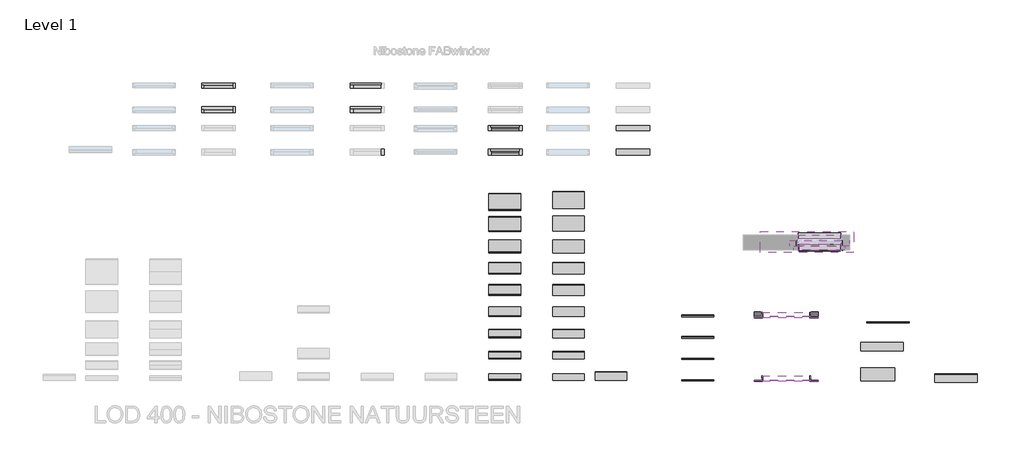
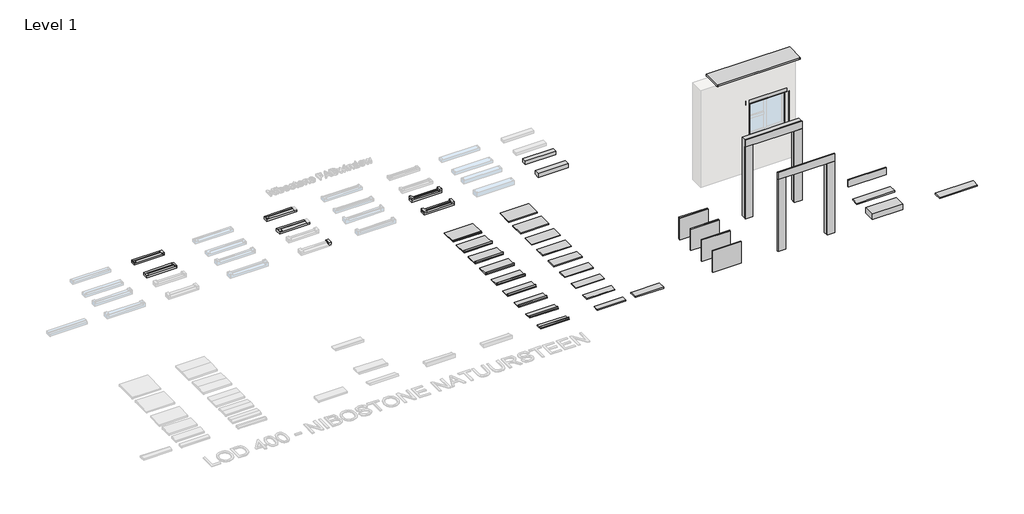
# One storey, part 3 of 4: 71 proxies.
"""IFC4 building model written with IfcOpenShell, lengths in millimetres."""

from ifc_helpers import new_model, si_unit, frame, origin, place, context, project, spatial, polyline, outline, extrude, faceted_brep, transform, mapped, element, save
from components import generic_models_4bea83f5, generic_models_c970b44f, generic_models_d3818979, generic_models_0f2e3a4e, generic_models_bb41b8d3, generic_models_ca184088, proxy_150_mm_c4bdd993, proxy_150_mm_ca923bcc, proxy_175_mm_28cd4d07, proxy_175_mm_1eb8ddfd, proxy_175_mm_35256b22, proxy_175_mm_2a68124a, proxy_200_mm_76491fd2, proxy_200_mm_34eb9fa0, proxy_225_mm_b38ed08b, proxy_225_mm_9ad4d809, proxy_250_mm_6b778dde, proxy_250_mm_bb0ab3bd, proxy_275_mm_4d599cdf, proxy_275_mm_176d9016, proxy_300_mm_cd6bf833, proxy_300_mm_4064e9de, proxy_350_mm_8b86544a, proxy_350_mm_dca82a35, proxy_400_mm_2aad5f86, proxy_400_mm_b8799641, proxy_500_mm_7bc9ffac, boven_94df7e55, links_18fe3aea, rechts_cb2a7235, std_9d51e7c5, std_7226f1d9, std_2bb5f184, std_e55cd7ee, std_7f9111ec, std_fba14e34, std_465226a6, std_f1861b5c, std_f690763c, std_e08fb664, std_f5cab2c8, std_3d7576f2, std_c930b66d

model = new_model("IFC4")

# Units and contexts
model_context = context("Model", 3, world=origin())
ifc_project = project(units=[si_unit("LENGTHUNIT", "METRE", prefix="MILLI")], contexts=[model_context])

# Site, building, storey
site = spatial("IfcSite", under=ifc_project)
building = spatial("IfcBuilding", under=site)
storey = spatial("IfcBuildingStorey", under=building, Name="Level 1", Elevation=0.0)

# Proxies
placement = place(None, origin())
element("IfcBuildingElementProxy", 1, Name="Nibostone : BLOK-114-100", ObjectType="Nibostone : BLOK-114-100", at=placement, inside=storey, context=model_context, shape_type="SweptSolid", body=[
    extrude(outline(polyline([(19500.0, 15886.0), (19500.0, 16000.0), (20293.7366492, 16000.0), (20293.7366492, 15886.0), (19500.0, 15886.0)])), frame((0.0, 0.0, -26.0), z_axis=(0.0, 0.0, 1.0), x_axis=(1.0, 0.0, 0.0)), (0.0, 0.0, 1.0), 100.0),
])
element("IfcBuildingElementProxy", 2, Name="Nibostone : BLOK-139-100", ObjectType="Nibostone : BLOK-139-100", at=placement, inside=storey, context=model_context, shape_type="SweptSolid", body=[
    extrude(outline(polyline([(19500.0, 15301.0), (19500.0, 15440.0), (20293.7366492, 15440.0), (20293.7366492, 15301.0), (19500.0, 15301.0)])), frame((0.0, 0.0, -26.0), z_axis=(0.0, 0.0, 1.0), x_axis=(1.0, 0.0, 0.0)), (0.0, 0.0, 1.0), 100.0),
])
generic_models_shape = generic_models_4bea83f5(model_context)
element("IfcBuildingElementProxy", 3, Name="400_35_NS_natuursteenkader_constructief : 400_35_NS_natuursteenkader_constructief", ObjectType="400_35_NS_natuursteenkader_constructief : 400_35_NS_natuursteenkader_constructief", at=placement, inside=storey, context=model_context, shape_type="MappedRepresentation", body=[
    mapped(generic_models_shape, transform((23500.0, 11500.0, 0.0), x_axis=(1.0, 0.0, 0.0), y_axis=(0.0, 1.0, 0.0), z_axis=(0.0, 0.0, 1.0))),
])
generic_models_2_shape = generic_models_c970b44f(model_context)
element("IfcBuildingElementProxy", 4, Name="400_24_NS_bloktrede : bloktrede", ObjectType="400_24_NS_bloktrede : bloktrede", at=placement, inside=storey, context=model_context, shape_type="MappedRepresentation", body=[
    mapped(generic_models_2_shape, transform((25250.0, 9991.3026751, 0.0), x_axis=(1.0, 0.0, 0.0), y_axis=(0.0, 1.0, 0.0), z_axis=(0.0, 0.0, 1.0))),
])
generic_models_3_shape = generic_models_d3818979(model_context)
element("IfcBuildingElementProxy", 5, Name="400_35_NS_gevelplint : 20 mm dik", ObjectType="400_35_NS_gevelplint : 20 mm dik", at=placement, inside=storey, context=model_context, shape_type="MappedRepresentation", body=[
    mapped(generic_models_3_shape, transform((21415.474413, 9991.3026751, 0.0), x_axis=(1.0, 0.0, 0.0), y_axis=(0.0, 1.0, 0.0), z_axis=(0.0, 0.0, 1.0))),
])
generic_models_4_shape = generic_models_0f2e3a4e(model_context)
element("IfcBuildingElementProxy", 6, Name="400_35_NS_gevelplint : 30 mm dik", ObjectType="400_35_NS_gevelplint : 30 mm dik", at=placement, inside=storey, context=model_context, shape_type="MappedRepresentation", body=[
    mapped(generic_models_4_shape, transform((21415.474413, 10491.3026751, 0.0), x_axis=(1.0, 0.0, 0.0), y_axis=(0.0, 1.0, 0.0), z_axis=(0.0, 0.0, 1.0))),
])
generic_models_5_shape = generic_models_bb41b8d3(model_context)
element("IfcBuildingElementProxy", 7, Name="400_35_NS_gevelplint : 40 mm dik", ObjectType="400_35_NS_gevelplint : 40 mm dik", at=placement, inside=storey, context=model_context, shape_type="MappedRepresentation", body=[
    mapped(generic_models_5_shape, transform((21415.474413, 10991.3026751, 0.0), x_axis=(1.0, 0.0, 0.0), y_axis=(0.0, 1.0, 0.0), z_axis=(0.0, 0.0, 1.0))),
])
generic_models_6_shape = generic_models_ca184088(model_context)
element("IfcBuildingElementProxy", 8, Name="400_35_NS_gevelplint : 50 mm dik", ObjectType="400_35_NS_gevelplint : 50 mm dik", at=placement, inside=storey, context=model_context, shape_type="MappedRepresentation", body=[
    mapped(generic_models_6_shape, transform((21415.474413, 11491.3026751, 0.0), x_axis=(1.0, 0.0, 0.0), y_axis=(0.0, 1.0, 0.0), z_axis=(0.0, 0.0, 1.0))),
])
proxy_150_mm_shape = proxy_150_mm_c4bdd993(model_context)
element("IfcBuildingElementProxy", 9, Name="400_35_NS_vensterbank : 150 mm", ObjectType="400_35_NS_vensterbank : 150 mm", at=placement, inside=storey, context=model_context, shape_type="MappedRepresentation", body=[
    mapped(proxy_150_mm_shape, transform((18378.8137943, 10001.8708366, 0.0), x_axis=(1.0, 0.0, 0.0), y_axis=(0.0, 1.0, 0.0), z_axis=(0.0, 0.0, 1.0))),
])
proxy_150_mm_2_shape = proxy_150_mm_ca923bcc(model_context)
element("IfcBuildingElementProxy", 10, Name="400_35_NS_raamdorpel_kunststof_klik : 150 mm", ObjectType="400_35_NS_raamdorpel_kunststof_klik : 150 mm", at=placement, inside=storey, context=model_context, shape_type="MappedRepresentation", body=[
    mapped(proxy_150_mm_2_shape, transform((16878.8137943, 10001.8708366, 0.0), x_axis=(1.0, 0.0, 0.0), y_axis=(0.0, 1.0, 0.0), z_axis=(0.0, 0.0, 1.0))),
])
proxy_175_mm_shape = proxy_175_mm_28cd4d07(model_context)
element("IfcBuildingElementProxy", 11, Name="400_35_NS_raamdorpel_natuursteen_klik : 175 mm", ObjectType="400_35_NS_raamdorpel_natuursteen_klik : 175 mm", at=placement, inside=storey, context=model_context, shape_type="MappedRepresentation", body=[
    mapped(proxy_175_mm_shape, transform((24281.0611281, 13292.3586374, 846.8050157), x_axis=(1.0, 0.0, 0.0), y_axis=(0.0, 1.0, 0.0), z_axis=(0.0, 0.0, 1.0))),
])
proxy_175_mm_2_shape = proxy_175_mm_1eb8ddfd(model_context)
element("IfcBuildingElementProxy", 12, Name="400_35_NS_vensterbank : 175 mm", ObjectType="400_35_NS_vensterbank : 175 mm", at=placement, inside=storey, context=model_context, shape_type="MappedRepresentation", body=[
    mapped(proxy_175_mm_2_shape, transform((18378.8137943, 10501.8708366, 0.0), x_axis=(1.0, 0.0, 0.0), y_axis=(0.0, 1.0, 0.0), z_axis=(0.0, 0.0, 1.0))),
])
proxy_175_mm_3_shape = proxy_175_mm_35256b22(model_context)
element("IfcBuildingElementProxy", 13, Name="400_35_NS_vensterbank : 175 mm", ObjectType="400_35_NS_vensterbank : 175 mm", at=placement, inside=storey, context=model_context, shape_type="MappedRepresentation", body=[
    mapped(proxy_175_mm_3_shape, transform((24281.0611281, 13217.3586374, 886.8050157), x_axis=(-1.0, 0.0, 0.0), y_axis=(0.0, -1.0, 0.0), z_axis=(0.0, 0.0, 1.0))),
])
proxy_175_mm_4_shape = proxy_175_mm_2a68124a(model_context)
element("IfcBuildingElementProxy", 14, Name="400_35_NS_raamdorpel_kunststof_klik : 175 mm", ObjectType="400_35_NS_raamdorpel_kunststof_klik : 175 mm", at=placement, inside=storey, context=model_context, shape_type="MappedRepresentation", body=[
    mapped(proxy_175_mm_4_shape, transform((16878.8137943, 10501.8708366, 0.0), x_axis=(1.0, 0.0, 0.0), y_axis=(0.0, 1.0, 0.0), z_axis=(0.0, 0.0, 1.0))),
])
proxy_200_mm_shape = proxy_200_mm_76491fd2(model_context)
element("IfcBuildingElementProxy", 15, Name="400_35_NS_vensterbank : 200 mm", ObjectType="400_35_NS_vensterbank : 200 mm", at=placement, inside=storey, context=model_context, shape_type="MappedRepresentation", body=[
    mapped(proxy_200_mm_shape, transform((18378.8137943, 11001.8708366, 0.0), x_axis=(1.0, 0.0, 0.0), y_axis=(0.0, 1.0, 0.0), z_axis=(0.0, 0.0, 1.0))),
])
proxy_200_mm_2_shape = proxy_200_mm_34eb9fa0(model_context)
element("IfcBuildingElementProxy", 16, Name="400_35_NS_raamdorpel_kunststof_klik : 200 mm", ObjectType="400_35_NS_raamdorpel_kunststof_klik : 200 mm", at=placement, inside=storey, context=model_context, shape_type="MappedRepresentation", body=[
    mapped(proxy_200_mm_2_shape, transform((16878.8137943, 11001.8708366, 0.0), x_axis=(1.0, 0.0, 0.0), y_axis=(0.0, 1.0, 0.0), z_axis=(0.0, 0.0, 1.0))),
])
proxy_225_mm_shape = proxy_225_mm_b38ed08b(model_context)
element("IfcBuildingElementProxy", 17, Name="400_35_NS_vensterbank : 225 mm", ObjectType="400_35_NS_vensterbank : 225 mm", at=placement, inside=storey, context=model_context, shape_type="MappedRepresentation", body=[
    mapped(proxy_225_mm_shape, transform((18378.8137943, 11501.8708366, 0.0), x_axis=(1.0, 0.0, 0.0), y_axis=(0.0, 1.0, 0.0), z_axis=(0.0, 0.0, 1.0))),
])
proxy_225_mm_2_shape = proxy_225_mm_9ad4d809(model_context)
element("IfcBuildingElementProxy", 18, Name="400_35_NS_raamdorpel_kunststof_klik : 225 mm", ObjectType="400_35_NS_raamdorpel_kunststof_klik : 225 mm", at=placement, inside=storey, context=model_context, shape_type="MappedRepresentation", body=[
    mapped(proxy_225_mm_2_shape, transform((16878.8137943, 11501.8708366, 0.0), x_axis=(1.0, 0.0, 0.0), y_axis=(0.0, 1.0, 0.0), z_axis=(0.0, 0.0, 1.0))),
])
proxy_250_mm_shape = proxy_250_mm_6b778dde(model_context)
element("IfcBuildingElementProxy", 19, Name="400_35_NS_vensterbank : 250 mm", ObjectType="400_35_NS_vensterbank : 250 mm", at=placement, inside=storey, context=model_context, shape_type="MappedRepresentation", body=[
    mapped(proxy_250_mm_shape, transform((18378.8137943, 12001.8708366, 0.0), x_axis=(1.0, 0.0, 0.0), y_axis=(0.0, 1.0, 0.0), z_axis=(0.0, 0.0, 1.0))),
])
proxy_250_mm_2_shape = proxy_250_mm_bb0ab3bd(model_context)
element("IfcBuildingElementProxy", 20, Name="400_35_NS_raamdorpel_kunststof_klik : 250 mm", ObjectType="400_35_NS_raamdorpel_kunststof_klik : 250 mm", at=placement, inside=storey, context=model_context, shape_type="MappedRepresentation", body=[
    mapped(proxy_250_mm_2_shape, transform((16878.8137943, 12001.8708366, 0.0), x_axis=(1.0, 0.0, 0.0), y_axis=(0.0, 1.0, 0.0), z_axis=(0.0, 0.0, 1.0))),
])
proxy_275_mm_shape = proxy_275_mm_4d599cdf(model_context)
element("IfcBuildingElementProxy", 21, Name="400_35_NS_vensterbank : 275 mm", ObjectType="400_35_NS_vensterbank : 275 mm", at=placement, inside=storey, context=model_context, shape_type="MappedRepresentation", body=[
    mapped(proxy_275_mm_shape, transform((18378.8137943, 12501.8708366, 0.0), x_axis=(1.0, 0.0, 0.0), y_axis=(0.0, 1.0, 0.0), z_axis=(0.0, 0.0, 1.0))),
])
proxy_275_mm_2_shape = proxy_275_mm_176d9016(model_context)
element("IfcBuildingElementProxy", 22, Name="400_35_NS_raamdorpel_kunststof_klik : 275 mm", ObjectType="400_35_NS_raamdorpel_kunststof_klik : 275 mm", at=placement, inside=storey, context=model_context, shape_type="MappedRepresentation", body=[
    mapped(proxy_275_mm_2_shape, transform((16878.8137943, 12501.8708366, 0.0), x_axis=(1.0, 0.0, 0.0), y_axis=(0.0, 1.0, 0.0), z_axis=(0.0, 0.0, 1.0))),
])
proxy_300_mm_shape = proxy_300_mm_cd6bf833(model_context)
element("IfcBuildingElementProxy", 23, Name="400_35_NS_vensterbank : 300 mm", ObjectType="400_35_NS_vensterbank : 300 mm", at=placement, inside=storey, context=model_context, shape_type="MappedRepresentation", body=[
    mapped(proxy_300_mm_shape, transform((18378.8137943, 13001.8708366, 0.0), x_axis=(1.0, 0.0, 0.0), y_axis=(0.0, 1.0, 0.0), z_axis=(0.0, 0.0, 1.0))),
])
proxy_300_mm_2_shape = proxy_300_mm_4064e9de(model_context)
element("IfcBuildingElementProxy", 24, Name="400_35_NS_raamdorpel_kunststof_klik : 300 mm", ObjectType="400_35_NS_raamdorpel_kunststof_klik : 300 mm", at=placement, inside=storey, context=model_context, shape_type="MappedRepresentation", body=[
    mapped(proxy_300_mm_2_shape, transform((16878.8137943, 13001.8708366, 0.0), x_axis=(1.0, 0.0, 0.0), y_axis=(0.0, 1.0, 0.0), z_axis=(0.0, 0.0, 1.0))),
])
proxy_350_mm_shape = proxy_350_mm_8b86544a(model_context)
element("IfcBuildingElementProxy", 25, Name="400_35_NS_vensterbank : 350 mm", ObjectType="400_35_NS_vensterbank : 350 mm", at=placement, inside=storey, context=model_context, shape_type="MappedRepresentation", body=[
    mapped(proxy_350_mm_shape, transform((18378.8137943, 13518.4409872, 0.0), x_axis=(1.0, 0.0, 0.0), y_axis=(0.0, 1.0, 0.0), z_axis=(0.0, 0.0, 1.0))),
])
proxy_350_mm_2_shape = proxy_350_mm_dca82a35(model_context)
element("IfcBuildingElementProxy", 26, Name="400_35_NS_raamdorpel_kunststof_klik : 350 mm", ObjectType="400_35_NS_raamdorpel_kunststof_klik : 350 mm", at=placement, inside=storey, context=model_context, shape_type="MappedRepresentation", body=[
    mapped(proxy_350_mm_2_shape, transform((16878.8137943, 13501.8708366, 0.0), x_axis=(1.0, 0.0, 0.0), y_axis=(0.0, 1.0, 0.0), z_axis=(0.0, 0.0, 1.0))),
])
proxy_400_mm_shape = proxy_400_mm_2aad5f86(model_context)
element("IfcBuildingElementProxy", 27, Name="400_35_NS_vensterbank : 400 mm", ObjectType="400_35_NS_vensterbank : 400 mm", at=placement, inside=storey, context=model_context, shape_type="MappedRepresentation", body=[
    mapped(proxy_400_mm_shape, transform((18378.8137943, 14048.8647736, 0.0), x_axis=(1.0, 0.0, 0.0), y_axis=(0.0, 1.0, 0.0), z_axis=(0.0, 0.0, 1.0))),
])
proxy_400_mm_2_shape = proxy_400_mm_b8799641(model_context)
element("IfcBuildingElementProxy", 28, Name="400_35_NS_raamdorpel_kunststof_klik : 400 mm", ObjectType="400_35_NS_raamdorpel_kunststof_klik : 400 mm", at=placement, inside=storey, context=model_context, shape_type="MappedRepresentation", body=[
    mapped(proxy_400_mm_2_shape, transform((16878.8137943, 14001.8708366, 0.0), x_axis=(1.0, 0.0, 0.0), y_axis=(0.0, 1.0, 0.0), z_axis=(0.0, 0.0, 1.0))),
])
proxy_500_mm_shape = proxy_500_mm_7bc9ffac(model_context)
element("IfcBuildingElementProxy", 29, Name="400_35_NS_afdekker_éénzijdig_afwaterend : 500 mm", ObjectType="400_35_NS_afdekker_éénzijdig_afwaterend : 500 mm", at=placement, inside=storey, context=model_context, shape_type="MappedRepresentation", body=[
    mapped(proxy_500_mm_shape, transform((23994.5083422, 13007.3586374, 2707.1148791), x_axis=(1.0, 0.0, 0.0), y_axis=(0.0, 1.0, 0.0), z_axis=(0.0, 0.0, 1.0))),
])
element("IfcBuildingElementProxy", 30, Name="Nibostone : BI-51-114", ObjectType="Nibostone : BI-51-114", at=placement, inside=storey, context=model_context, shape_type="Brep", body=[
    faceted_brep([(13250.0, 16999.5777074, -26.0), (13250.0, 16999.5777074, 44.0), (13976.7366492, 16999.5777074, 44.0), (13976.7366492, 16999.5777074, 8.9806081), (14043.7366492, 16999.5777074, 8.9806081), (14043.7366492, 16999.5777074, -26.0), (13250.0, 16958.5777074, 44.0), (13250.0, 16958.5777074, 27.6985751), (13300.0, 16958.5777074, 27.6985751), (13976.7366492, 16958.5777074, 27.6985751), (13976.7366492, 16958.5777074, 44.0), (13300.0, 16958.5777074, 44.0), (14043.7366492, 16885.5777074, -26.0), (13250.0, 16885.5777074, -26.0), (14043.7366492, 16964.4229826, 8.9806081), (14043.7366492, 16885.5777074, 8.9806081), (13976.7366492, 16948.5777074, 8.9806081), (13976.7366492, 16885.5777074, 8.9806081), (13976.7366492, 16964.5777074, 8.9806081), (13976.7366492, 16958.5777074, 8.9806081), (13993.7366492, 16958.5777074, 8.9806081), (13993.7366492, 16948.5777074, 8.9806081), (13993.7366492, 16948.5777074, 27.2619657), (13976.7366492, 16948.5777074, 27.2619657), (13993.7366492, 16958.5777074, 27.6985751), (13976.7366492, 16885.5777074, 24.5113263), (13317.0, 16885.5777074, 24.5113263), (13250.0, 16885.5777074, 24.5113263)], [[[0, 1, 2, 3, 4, 5]], [[6, 7, 8, 9, 10, 11]], [[1, 6, 11, 10, 2]], [[0, 5, 12, 13]], [[12, 5, 4, 14, 15]], [[16, 17, 15, 14, 18, 19, 20, 21]], [[16, 21, 22, 23]], [[20, 19, 9, 24]], [[13, 12, 15, 17, 25, 26, 27]], [[1, 0, 13, 27, 7, 6]], [[7, 27, 26, 25, 23, 22, 24, 9, 8]], [[18, 14, 4, 3]], [[17, 16, 23, 25]], [[21, 20, 24, 22]], [[19, 18, 3, 2, 10, 9]]]),
])
element("IfcBuildingElementProxy", 31, Name="Nibostone : BI-57-139", ObjectType="Nibostone : BI-57-139", at=placement, inside=storey, context=model_context, shape_type="Brep", body=[
    faceted_brep([(13250.0, 16440.0, -26.0), (13250.0, 16440.0, 44.0), (13976.7366492, 16440.0, 44.0), (13976.7366492, 16440.0, 8.9806081), (14043.7366492, 16440.0, 8.9806081), (14043.7366492, 16440.0, -26.0), (13250.0, 16393.0, 44.0), (13250.0, 16393.0, 27.4366094), (13300.0, 16393.0, 27.4366094), (13976.7366492, 16393.0, 27.4366094), (13976.7366492, 16393.0, 44.0), (13300.0, 16393.0, 44.0), (14043.7366492, 16301.0, -26.0), (13250.0, 16301.0, -26.0), (14043.7366492, 16404.8452752, 8.9806081), (14043.7366492, 16301.0, 8.9806081), (13976.7366492, 16383.0, 8.9806081), (13976.7366492, 16301.0, 8.9806081), (13976.7366492, 16405.0, 8.9806081), (13976.7366492, 16393.0, 8.9806081), (13993.7366492, 16393.0, 8.9806081), (13993.7366492, 16383.0, 8.9806081), (13976.7366492, 16301.0, 23.4198027), (13317.0, 16301.0, 23.4198027), (13250.0, 16301.0, 23.4198027), (13976.7366492, 16383.0, 27.0), (13993.7366492, 16383.0, 27.0), (13993.7366492, 16393.0, 27.4366094)], [[[0, 1, 2, 3, 4, 5]], [[6, 7, 8, 9, 10, 11]], [[1, 6, 11, 10, 2]], [[0, 5, 12, 13]], [[12, 5, 4, 14, 15]], [[16, 17, 15, 14, 18, 19, 20, 21]], [[13, 12, 15, 17, 22, 23, 24]], [[1, 0, 13, 24, 7, 6]], [[7, 24, 23, 22, 25, 26, 27, 9, 8]], [[18, 14, 4, 3]], [[21, 20, 27, 26]], [[16, 21, 26, 25]], [[20, 19, 9, 27]], [[17, 16, 25, 22]], [[19, 18, 3, 2, 10, 9]]]),
])
element("IfcBuildingElementProxy", 32, Name="Nibostone : BU-67-114", ObjectType="Nibostone : BU-67-114", at=placement, inside=storey, context=model_context, shape_type="Brep", body=[
    faceted_brep([(9750.0, 16999.5777074, -26.0), (9750.0, 16999.5777074, 44.0), (10476.7366492, 16999.5777074, 44.0), (10476.7366492, 16999.5777074, 26.0), (10543.7366492, 16999.5777074, 26.0), (10543.7366492, 16999.5777074, -26.0), (9750.0, 16952.5777074, 44.0), (9750.0, 16952.5777074, 27.4366094), (9800.0, 16952.5777074, 27.4366094), (10476.7366492, 16952.5777074, 27.4366094), (10476.7366492, 16952.5777074, 44.0), (9800.0, 16952.5777074, 44.0), (9750.0, 16885.5777074, 24.5113263), (9750.0, 16885.5777074, -26.0), (10543.7366492, 16885.5777074, -26.0), (10543.7366492, 16885.5777074, 8.9806081), (10502.7366492, 16885.5777074, 8.9806081), (10502.7366492, 16885.5777074, 24.5113263), (10543.7366492, 16964.4229826, 26.0), (10543.7366492, 16964.4229826, 8.9806081), (10502.7366492, 16902.5742907, 25.2534131), (10493.7366492, 16902.5742907, 25.2534131), (10493.7366492, 16952.5777074, 27.4366094), (10502.7366492, 16902.5742907, 8.9806081), (10476.7366492, 16964.5777074, 8.9806081), (10476.7366492, 16952.5742907, 8.9806081), (10493.7366492, 16952.5742907, 8.9806081), (10493.7366492, 16902.5742907, 8.9806081), (10476.7366492, 16964.5777074, 26.0)], [[[0, 1, 2, 3, 4, 5]], [[6, 7, 8, 9, 10, 11]], [[1, 6, 11, 10, 2]], [[12, 13, 14, 15, 16, 17]], [[0, 5, 14, 13]], [[14, 5, 4, 18, 19, 15]], [[1, 0, 13, 12, 7, 6]], [[7, 12, 17, 20, 21, 22, 9, 8]], [[23, 16, 15, 19, 24, 25, 26, 27]], [[24, 19, 18, 28]], [[28, 18, 4, 3]], [[25, 24, 28, 3, 2, 10, 9]], [[16, 23, 20, 17]], [[23, 27, 21, 20]], [[27, 26, 22, 21]], [[26, 25, 9, 22]]]),
])
element("IfcBuildingElementProxy", 33, Name="Nibostone : BU-72-139", ObjectType="Nibostone : BU-72-139", at=placement, inside=storey, context=model_context, shape_type="Brep", body=[
    faceted_brep([(9750.0, 16440.0, -26.0), (9750.0, 16440.0, 44.0), (10476.7366492, 16440.0, 44.0), (10476.7366492, 16440.0, 26.0), (10543.7366492, 16440.0, 26.0), (10543.7366492, 16440.0, -26.0), (9750.0, 16373.0, 44.0), (9750.0, 16373.0, 26.5633906), (9800.0, 16373.0, 26.5633906), (10476.7366492, 16373.0, 26.5633906), (10476.7366492, 16373.0, 44.0), (9800.0, 16373.0, 44.0), (10543.7366492, 16301.0, -26.0), (9750.0, 16301.0, -26.0), (10543.7366492, 16404.8452752, 26.0), (10543.7366492, 16404.8452752, 8.9806081), (10543.7366492, 16301.0, 8.9806081), (10502.7366492, 16318.0, 8.9806081), (10502.7366492, 16301.0, 8.9806081), (10476.7366492, 16405.0, 8.9806081), (10476.7366492, 16372.9965833, 8.9806081), (10493.7366492, 16372.9965833, 8.9806081), (10493.7366492, 16318.0, 8.9806081), (10502.7366492, 16301.0, 23.4198027), (9791.0, 16301.0, 23.4198027), (9750.0, 16301.0, 23.4198027), (10502.7366492, 16318.0, 24.1620387), (10493.7366492, 16318.0, 24.1620387), (10493.7366492, 16373.0, 26.5633906), (10476.7366492, 16405.0, 26.0)], [[[0, 1, 2, 3, 4, 5]], [[6, 7, 8, 9, 10, 11]], [[1, 6, 11, 10, 2]], [[0, 5, 12, 13]], [[12, 5, 4, 14, 15, 16]], [[17, 18, 16, 15, 19, 20, 21, 22]], [[13, 12, 16, 18, 23, 24, 25]], [[1, 0, 13, 25, 7, 6]], [[7, 25, 24, 23, 26, 27, 28, 9, 8]], [[19, 15, 14, 29]], [[3, 29, 14, 4]], [[17, 22, 27, 26]], [[20, 19, 29, 3, 2, 10, 9]], [[18, 17, 26, 23]], [[22, 21, 28, 27]], [[21, 20, 9, 28]]]),
])
element("IfcBuildingElementProxy", 34, Name="Nibostone : DA-51-114 VN", ObjectType="Nibostone : DA-51-114 VN", at=placement, inside=storey, context=model_context, shape_type="Brep", body=[
    faceted_brep([(16493.7645592, 16000.0, -26.0), (16493.7645592, 16000.0, 26.5633906), (17287.5012085, 16000.0, 26.5633906), (17287.5012085, 16000.0, -26.0), (16493.7645592, 15959.0, 26.5633906), (16543.7645592, 15959.0, 26.5633906), (17237.5012085, 15959.0, 26.5633906), (17287.5012085, 15959.0, 26.5633906), (16493.7645592, 15929.0, 26.3887468), (16493.7645592, 15886.0, 24.5113263), (16560.7645592, 15886.0, 24.5113263), (17220.5012085, 15886.0, 24.5113263), (17287.5012085, 15886.0, 24.5113263), (17287.5012085, 15929.0, 26.3887468), (17220.5012085, 15929.0, 26.3887468), (16560.7645592, 15929.0, 26.3887468), (16493.7645592, 15886.0, -26.0), (17287.5012085, 15886.0, -26.0), (17287.5012085, 15959.0, 21.5633906), (17287.5012085, 15949.0, 21.5633906), (17287.5012085, 15949.0, 44.0), (17287.5012085, 15929.0, 44.0), (16493.7645592, 15929.0, 44.0), (16493.7645592, 15949.0, 44.0), (16493.7645592, 15949.0, 21.5633906), (16493.7645592, 15959.0, 21.5633906), (16543.7645592, 15959.0, 21.5633906), (17237.5012085, 15959.0, 21.5633906), (17220.5012085, 15929.0, 44.0), (16560.7645592, 15929.0, 44.0), (17237.5012085, 15949.0, 44.0), (16543.7645592, 15949.0, 44.0), (17237.5012085, 15949.0, 21.5633906), (16543.7645592, 15949.0, 21.5633906)], [[[0, 1, 2, 3]], [[1, 4, 5, 6, 7, 2]], [[8, 9, 10, 11, 12, 13, 14, 15]], [[16, 0, 3, 17]], [[3, 2, 7, 18, 19, 20, 21, 13, 12, 17]], [[9, 16, 17, 12, 11, 10]], [[0, 16, 9, 8, 22, 23, 24, 25, 4, 1]], [[4, 25, 26, 27, 18, 7, 6, 5]], [[22, 8, 15, 14, 13, 21, 28, 29]], [[23, 22, 29, 28, 21, 20, 30, 31]], [[24, 23, 31, 30, 20, 19, 32, 33]], [[25, 24, 33, 32, 19, 18, 27, 26]]]),
])
element("IfcBuildingElementProxy", 35, Name="Nibostone : DA-57-139 VN", ObjectType="Nibostone : DA-57-139 VN", at=placement, inside=storey, context=model_context, shape_type="Brep", body=[
    faceted_brep([(16493.7645592, 15440.0, -26.0), (16493.7645592, 15440.0, 26.5633906), (17287.5012085, 15440.0, 26.5633906), (17287.5012085, 15440.0, -26.0), (16493.7645592, 15393.0, 26.5633906), (16543.7645592, 15393.0, 26.5633906), (17237.5012085, 15393.0, 26.5633906), (17287.5012085, 15393.0, 26.5633906), (16493.7645592, 15363.0, 26.1267811), (16493.7645592, 15301.0, 23.4198027), (16560.7645592, 15301.0, 23.4198027), (17220.5012085, 15301.0, 23.4198027), (17287.5012085, 15301.0, 23.4198027), (17287.5012085, 15363.0, 26.1267811), (17220.5012085, 15363.0, 26.1267811), (16560.7645592, 15363.0, 26.1267811), (16493.7645592, 15301.0, -26.0), (17287.5012085, 15301.0, -26.0), (17287.5012085, 15393.0, 21.5633906), (17287.5012085, 15383.0, 21.5633906), (17287.5012085, 15383.0, 44.0), (17287.5012085, 15363.0, 44.0), (16493.7645592, 15363.0, 44.0), (16493.7645592, 15383.0, 44.0), (16493.7645592, 15383.0, 21.5633906), (16493.7645592, 15393.0, 21.5633906), (16543.7645592, 15393.0, 21.5633906), (17237.5012085, 15393.0, 21.5633906), (17220.5012085, 15363.0, 44.0), (16560.7645592, 15363.0, 44.0), (17237.5012085, 15383.0, 44.0), (17220.5012085, 15383.0, 44.0), (16560.7645592, 15383.0, 44.0), (16543.7645592, 15383.0, 44.0), (17237.5012085, 15383.0, 21.5633906), (16543.7645592, 15383.0, 21.5633906)], [[[0, 1, 2, 3]], [[1, 4, 5, 6, 7, 2]], [[8, 9, 10, 11, 12, 13, 14, 15]], [[16, 0, 3, 17]], [[3, 2, 7, 18, 19, 20, 21, 13, 12, 17]], [[9, 16, 17, 12, 11, 10]], [[0, 16, 9, 8, 22, 23, 24, 25, 4, 1]], [[4, 25, 26, 27, 18, 7, 6, 5]], [[22, 8, 15, 14, 13, 21, 28, 29]], [[23, 22, 29, 28, 21, 20, 30, 31, 32, 33]], [[24, 23, 33, 32, 31, 30, 20, 19, 34, 35]], [[25, 24, 35, 34, 19, 18, 27, 26]]]),
])
boven_shape = boven_94df7e55(model_context)
element("IfcBuildingElementProxy", 36, Name="400_35_NS_betonstrook : boven", ObjectType="400_35_NS_betonstrook : boven", at=placement, inside=storey, context=model_context, shape_type="MappedRepresentation", body=[
    mapped(boven_shape, transform((23500.0, 10000.0, 2000.0), x_axis=(1.0, 0.0, 0.0), y_axis=(0.0, 0.0, 1.0), z_axis=(0.0, -1.0, 0.0))),
])
element("IfcBuildingElementProxy", 37, Name="400_35_NS_betonstrook : boven", ObjectType="400_35_NS_betonstrook : boven", at=placement, inside=storey, context=model_context, shape_type="MappedRepresentation", body=[
    mapped(boven_shape, transform((23500.0, 11500.0, 2000.0), x_axis=(1.0, 0.0, 0.0), y_axis=(0.0, 0.0, 1.0), z_axis=(0.0, -1.0, 0.0))),
])
links_shape = links_18fe3aea(model_context)
element("IfcBuildingElementProxy", 38, Name="400_35_NS_betonstrook : links", ObjectType="400_35_NS_betonstrook : links", at=placement, inside=storey, context=model_context, shape_type="MappedRepresentation", body=[
    mapped(links_shape, transform((22950.0, 10000.0, 1000.0), x_axis=(0.0, 0.0, 1.0), y_axis=(-1.0, 0.0, 0.0), z_axis=(0.0, -1.0, 0.0))),
])
element("IfcBuildingElementProxy", 39, Name="400_35_NS_betonstrook : links", ObjectType="400_35_NS_betonstrook : links", at=placement, inside=storey, context=model_context, shape_type="MappedRepresentation", body=[
    mapped(links_shape, transform((22950.0, 11500.0, 1000.0), x_axis=(0.0, 0.0, 1.0), y_axis=(-1.0, 0.0, 0.0), z_axis=(0.0, -1.0, 0.0))),
])
rechts_shape = rechts_cb2a7235(model_context)
element("IfcBuildingElementProxy", 40, Name="400_35_NS_betonstrook : rechts", ObjectType="400_35_NS_betonstrook : rechts", at=placement, inside=storey, context=model_context, shape_type="MappedRepresentation", body=[
    mapped(rechts_shape, transform((24050.0, 10000.0, 1000.0), x_axis=(0.0, 0.0, 1.0), y_axis=(-1.0, 0.0, 0.0), z_axis=(0.0, -1.0, 0.0))),
])
element("IfcBuildingElementProxy", 41, Name="400_35_NS_betonstrook : rechts", ObjectType="400_35_NS_betonstrook : rechts", at=placement, inside=storey, context=model_context, shape_type="MappedRepresentation", body=[
    mapped(rechts_shape, transform((24050.0, 11500.0, 1000.0), x_axis=(0.0, 0.0, 1.0), y_axis=(-1.0, 0.0, 0.0), z_axis=(0.0, -1.0, 0.0))),
])
element("IfcBuildingElementProxy", 42, Name="BU-NEUT-67-114 : std", ObjectType="BU-NEUT-67-114 : std", at=placement, inside=storey, context=model_context, shape_type="Brep", body=[
    faceted_brep([(10543.7366492, 16964.4229826, 8.9806081), (10543.7366492, 16885.5742907, 8.9806081), (10502.7366492, 16885.5742907, 8.9806081), (10502.7366492, 16902.5742907, 8.9806081), (10493.7366492, 16902.5742907, 8.9806081), (10493.7366492, 16952.5742907, 8.9806081), (10476.7366492, 16952.5742907, 8.9806081), (10476.7366492, 16964.5777074, 8.9806081), (10476.7366492, 16964.5777074, 26.0), (10543.7366492, 16964.4229826, 26.0), (10476.7366492, 16999.5742907, 26.0), (10543.7366492, 16999.5742907, 26.0), (10476.7366492, 16999.5742907, 44.0), (10543.7366492, 16999.5742907, 44.0), (10476.7366492, 16952.5742907, 44.0), (10493.7366492, 16952.5742907, 44.0), (10493.7366492, 16902.5742907, 44.0), (10502.7366492, 16902.5742907, 44.0), (10502.7366492, 16885.5742907, 44.0), (10543.7366492, 16885.5742907, 44.0), (10476.7366492, 16952.5742907, 27.4366094), (10502.7366492, 16902.5742907, 25.2534131), (10493.7366492, 16902.5742907, 25.2534131), (10493.7366492, 16952.5742907, 27.4366094)], [[[0, 1, 2, 3, 4, 5, 6, 7]], [[0, 7, 8, 9]], [[9, 8, 10, 11]], [[11, 10, 12, 13]], [[13, 12, 14, 15, 16, 17, 18, 19]], [[1, 19, 18, 2]], [[8, 7, 6, 20, 14, 12, 10]], [[1, 0, 9, 11, 13, 19]], [[17, 21, 3, 2, 18]], [[3, 21, 17, 16, 22, 4]], [[4, 22, 16, 15, 23, 5]], [[5, 23, 15, 14, 20, 6]]]),
])
element("IfcBuildingElementProxy", 43, Name="BU-NEUT-67-114 : std", ObjectType="BU-NEUT-67-114 : std", at=placement, inside=storey, context=model_context, shape_type="Brep", body=[
    faceted_brep([(9750.0, 16885.5742907, 44.0), (9791.0, 16885.5742907, 44.0), (9791.0, 16902.5742907, 44.0), (9800.0, 16902.5742907, 44.0), (9800.0, 16952.5742907, 44.0), (9750.0, 16952.5777074, 44.0), (9750.0, 16885.5742907, 24.5111771), (9791.0, 16885.5742907, 24.5111771), (9750.0, 16952.5777074, 27.4366094), (9791.0, 16902.5742907, 25.2534131), (9800.0, 16902.5742907, 25.2534131), (9800.0, 16952.5742907, 27.4364603)], [[[0, 1, 2, 3, 4, 5]], [[1, 0, 6, 7]], [[0, 5, 8, 6]], [[2, 1, 7, 9]], [[3, 2, 9, 10]], [[4, 3, 10, 11]], [[11, 8, 5, 4]], [[8, 11, 10, 9, 7, 6]]]),
])
element("IfcBuildingElementProxy", 44, Name="BU-NEUT-72-139 : std", ObjectType="BU-NEUT-72-139 : std", at=placement, inside=storey, context=model_context, shape_type="Brep", body=[
    faceted_brep([(10543.7366492, 16404.8452752, 8.9806081), (10543.7366492, 16301.0, 8.9806081), (10502.7366492, 16301.0, 8.9806081), (10502.7366492, 16318.0, 8.9806081), (10493.7366492, 16318.0, 8.9806081), (10493.7366492, 16372.9965833, 8.9806081), (10476.7366492, 16372.9965833, 8.9806081), (10476.7366492, 16405.0, 8.9806081), (10476.7366492, 16405.0, 26.0), (10476.7366492, 16372.9965833, 26.5633906), (10476.7366492, 16372.9965833, 44.0), (10476.7366492, 16439.9965833, 44.0), (10476.7366492, 16439.9965833, 26.0), (10543.7366492, 16404.8452752, 26.0), (10543.7366492, 16439.9965833, 26.0), (10543.7366492, 16439.9965833, 44.0), (10493.7366492, 16372.9965833, 44.0), (10493.7366492, 16318.0, 44.0), (10502.7366492, 16318.0, 44.0), (10502.7366492, 16301.0, 44.0), (10543.7366492, 16301.0, 44.0), (10502.7366492, 16318.0, 24.1620387), (10493.7366492, 16318.0, 24.1620387), (10502.7366492, 16301.0, 23.4198027), (10493.7366492, 16372.9965833, 26.5633906)], [[[0, 1, 2, 3, 4, 5, 6, 7]], [[8, 7, 6, 9, 10, 11, 12]], [[0, 7, 8, 13]], [[13, 8, 12, 14]], [[14, 12, 11, 15]], [[15, 11, 10, 16, 17, 18, 19, 20]], [[1, 0, 13, 14, 15, 20]], [[3, 21, 18, 17, 22, 4]], [[1, 20, 19, 23, 2]], [[18, 21, 3, 2, 23, 19]], [[4, 22, 17, 16, 24, 5]], [[5, 24, 16, 10, 9, 6]]]),
])
element("IfcBuildingElementProxy", 45, Name="BU-NEUT-72-139 : std", ObjectType="BU-NEUT-72-139 : std", at=placement, inside=storey, context=model_context, shape_type="Brep", body=[
    faceted_brep([(9800.0, 16373.0, 26.5632414), (9750.0, 16373.0, 26.5633906), (9750.0, 16373.0, 44.0), (9800.0, 16373.0, 44.0), (9800.0, 16318.0, 44.0), (9750.0, 16301.0, 44.0), (9791.0, 16301.0, 44.0), (9791.0, 16318.0, 44.0), (9750.0, 16301.0, 23.4198027), (9791.0, 16318.0, 24.1620387), (9800.0, 16318.0, 24.1620387), (9791.0, 16301.0, 23.4198027)], [[[0, 1, 2, 3]], [[4, 3, 2, 5, 6, 7]], [[5, 2, 1, 8]], [[4, 7, 9, 10]], [[1, 0, 10, 9, 11, 8]], [[6, 5, 8, 11]], [[7, 6, 11, 9]], [[3, 4, 10, 0]]]),
])
element("IfcBuildingElementProxy", 46, Name="BI-NEUT-51-114 : std", ObjectType="BI-NEUT-51-114 : std", at=placement, inside=storey, context=model_context, shape_type="Brep", body=[
    faceted_brep([(13300.0, 16948.5777074, 44.0), (13317.0, 16948.5777074, 44.0), (13317.0, 16948.5777074, 27.2619657), (13300.0, 16948.5777074, 27.2619657), (13300.0, 16958.5777074, 27.6985751), (13250.0, 16958.5777074, 27.6985751), (13250.0, 16958.5777074, 44.0), (13300.0, 16958.5777074, 44.0), (13317.0, 16885.5777074, 24.5113263), (13250.0, 16885.5777074, 24.5113263), (13250.0, 16885.5777074, 44.0), (13317.0, 16885.5777074, 44.0)], [[[0, 1, 2, 3]], [[4, 5, 6, 7]], [[5, 4, 3, 2, 8, 9]], [[10, 11, 1, 0, 7, 6]], [[11, 10, 9, 8]], [[1, 11, 8, 2]], [[10, 6, 5, 9]], [[7, 0, 3, 4]]]),
])
element("IfcBuildingElementProxy", 47, Name="BI-VH-NEUT-57-139 : std", ObjectType="BI-VH-NEUT-57-139 : std", at=placement, inside=storey, context=model_context, shape_type="Brep", body=[
    faceted_brep([(14043.7366492, 15404.8452752, 8.9806081), (14043.7366492, 15301.0, 8.9806081), (13976.7366492, 15301.0, 8.9806081), (13976.7366492, 15383.0, 8.9806081), (13993.7366492, 15383.0, 8.9806081), (13993.7366492, 15393.0, 8.9806081), (13976.7366492, 15393.0, 8.9806081), (13976.7366492, 15405.0, 8.9806081), (13993.7366492, 15383.0, 74.0), (13993.7366492, 15383.0, 27.0), (13976.7366492, 15383.0, 27.0), (13976.7366492, 15383.0, 74.0), (13993.7366492, 15393.0, 27.4366094), (13993.7366492, 15393.0, 74.0), (13976.7366492, 15393.0, 74.0), (13976.7366492, 15393.0, 44.0), (13976.7366492, 15393.0, 27.4366094), (13976.7366492, 15439.9965833, 8.9806081), (14043.7366492, 15439.9965833, 8.9806081), (13976.7366492, 15439.9965833, 74.0), (14043.7366492, 15439.9965833, 74.0), (13976.7366492, 15301.0, 74.0), (14043.7366492, 15301.0, 74.0), (13976.7366492, 15301.0, 23.4198027)], [[[0, 1, 2, 3, 4, 5, 6, 7]], [[8, 9, 4, 3, 10, 11]], [[5, 12, 13, 14, 15, 16, 6]], [[0, 7, 17, 18]], [[18, 17, 19, 20]], [[20, 19, 14, 13, 8, 11, 21, 22]], [[2, 1, 22, 21, 23]], [[4, 9, 8, 13, 12, 5]], [[17, 7, 6, 16, 15, 14, 19]], [[2, 23, 21, 11, 10, 3]], [[1, 0, 18, 20, 22]]]),
])
element("IfcBuildingElementProxy", 48, Name="BI-NEUT-57-139 : std", ObjectType="BI-NEUT-57-139 : std", at=placement, inside=storey, context=model_context, shape_type="Brep", body=[
    faceted_brep([(13300.0, 16383.0, 44.0), (13317.0, 16383.0, 44.0), (13317.0, 16383.0, 27.0), (13300.0, 16383.0, 27.0), (13300.0, 16393.0, 27.4366094), (13250.0, 16393.0, 27.4366094), (13250.0, 16393.0, 44.0), (13300.0, 16393.0, 44.0), (13250.0, 16301.0, 44.0), (13317.0, 16301.0, 44.0), (13250.0, 16301.0, 23.4198027), (13317.0, 16301.0, 23.4198027)], [[[0, 1, 2, 3]], [[4, 5, 6, 7]], [[0, 7, 6, 8, 9, 1]], [[9, 8, 10, 11]], [[7, 0, 3, 4]], [[5, 4, 3, 2, 11, 10]], [[1, 9, 11, 2]], [[8, 6, 5, 10]]]),
])
element("IfcBuildingElementProxy", 49, Name="DA-VH-NEUT-51-114 : std", ObjectType="DA-VH-NEUT-51-114 : std", at=placement, inside=storey, context=model_context, shape_type="Brep", body=[
    faceted_brep([(17237.5012085, 15999.9965833, 74.0), (17287.5012085, 15999.9965833, 74.0), (17287.5012085, 15999.9965833, 26.5633906), (17237.5012085, 15999.9965833, 26.5633906), (17287.5012085, 15886.0, 74.0), (17220.5012085, 15886.0, 74.0), (17220.5012085, 15886.0, 24.5113263), (17287.5012085, 15886.0, 24.5113263), (17237.5012085, 15948.9965833, 74.0), (17220.5012085, 15948.9965833, 74.0), (17220.5012085, 15948.9965833, 44.0), (17220.5012085, 15929.0, 44.0), (17220.5012085, 15929.0, 26.3887468), (17287.5012085, 15929.0, 26.3887468), (17287.5012085, 15929.0, 44.0), (17287.5012085, 15949.0, 44.0), (17287.5012085, 15949.0, 21.5633906), (17287.5012085, 15959.0, 21.5633906), (17287.5012085, 15959.0, 26.5633906), (17237.5012085, 15959.0, 26.5633906), (17237.5012085, 15959.0, 21.5633906), (17237.5012085, 15948.9965833, 21.5633906), (17237.5012085, 15949.0, 44.0)], [[[0, 1, 2, 3]], [[4, 5, 6, 7]], [[1, 0, 8, 9, 5, 4]], [[5, 9, 10, 11, 12, 6]], [[1, 4, 7, 13, 14, 15, 16, 17, 18, 2]], [[8, 0, 3, 19, 20, 21, 22]], [[9, 8, 22, 10]], [[18, 19, 3, 2]], [[12, 13, 7, 6]], [[19, 18, 17, 20]], [[13, 12, 11, 14]], [[22, 15, 14, 11, 10]], [[15, 22, 21, 16]], [[16, 21, 20, 17]]]),
])
element("IfcBuildingElementProxy", 50, Name="DA-VH-NEUT-51-114 : std", ObjectType="DA-VH-NEUT-51-114 : std", at=placement, inside=storey, context=model_context, shape_type="Brep", body=[
    faceted_brep([(16493.7645592, 15999.9965833, 74.0), (16543.7645592, 15999.9965833, 74.0), (16543.7645592, 15999.9965833, 26.5633906), (16493.7645592, 15999.9965833, 26.5633906), (16543.7645592, 15959.0, 26.5633906), (16493.7645592, 15959.0, 26.5633906), (16493.7645592, 15929.0, 26.3887468), (16560.7645592, 15929.0, 26.3887468), (16560.7645592, 15886.0, 24.5113263), (16493.7645592, 15886.0, 24.5113263), (16560.7645592, 15886.0, 74.0), (16493.7645592, 15886.0, 74.0), (16543.7645592, 15959.0, 21.5633906), (16493.7645592, 15959.0, 21.5633906), (16493.7645592, 15929.0, 44.0), (16560.7645592, 15929.0, 44.0), (16493.7645592, 15949.0, 44.0), (16543.7645592, 15948.9965833, 44.0), (16560.7645592, 15948.9965833, 44.0), (16493.7645592, 15949.0, 21.5633906), (16543.7645592, 15949.0, 21.5633906), (16560.7645592, 15948.9965833, 74.0), (16543.7645592, 15948.9965833, 74.0)], [[[0, 1, 2, 3]], [[4, 5, 3, 2]], [[6, 7, 8, 9]], [[10, 11, 9, 8]], [[5, 4, 12, 13]], [[7, 6, 14, 15]], [[16, 17, 18, 15, 14]], [[17, 16, 19, 20]], [[20, 19, 13, 12]], [[0, 11, 10, 21, 22, 1]], [[21, 10, 8, 7, 15, 18]], [[11, 0, 3, 5, 13, 19, 16, 14, 6, 9]], [[1, 22, 17, 20, 12, 4, 2]], [[22, 21, 18, 17]]]),
])
element("IfcBuildingElementProxy", 51, Name="DA-VH-NEUT-57-139 : std", ObjectType="DA-VH-NEUT-57-139 : std", at=placement, inside=storey, context=model_context, shape_type="Brep", body=[
    faceted_brep([(17237.5012085, 15439.9965833, 74.0), (17287.5012085, 15439.9965833, 74.0), (17287.5012085, 15439.9965833, 26.5633906), (17237.5012085, 15439.9965833, 26.5633906), (17287.5012085, 15301.0, 74.0), (17220.5012085, 15301.0, 74.0), (17220.5012085, 15301.0, 23.4198027), (17287.5012085, 15301.0, 23.4198027), (17237.5012085, 15382.9977382, 74.0), (17220.5012085, 15382.9977382, 74.0), (17220.5012085, 15382.9987818, 44.0), (17220.5012085, 15363.0, 44.0), (17220.5012085, 15363.0, 26.1267811), (17287.5012085, 15363.0, 26.1267811), (17287.5012085, 15363.0, 44.0), (17287.5012085, 15383.0, 44.0), (17287.5012085, 15383.0, 21.5633906), (17287.5012085, 15393.0, 21.5633906), (17287.5012085, 15393.0, 26.5633906), (17237.5012085, 15393.0, 26.5633906), (17237.5012085, 15393.0, 21.5633906), (17237.5012085, 15382.9995623, 21.5633906), (17237.5012085, 15383.0, 44.0)], [[[0, 1, 2, 3]], [[4, 5, 6, 7]], [[1, 0, 8, 9, 5, 4]], [[5, 9, 10, 11, 12, 6]], [[1, 4, 7, 13, 14, 15, 16, 17, 18, 2]], [[8, 0, 3, 19, 20, 21, 22]], [[9, 8, 22, 10]], [[18, 19, 3, 2]], [[12, 13, 7, 6]], [[19, 18, 17, 20]], [[13, 12, 11, 14]], [[22, 15, 14, 11, 10]], [[15, 22, 21, 16]], [[16, 21, 20, 17]]]),
])
element("IfcBuildingElementProxy", 52, Name="DA-VH-NEUT-57-139 : std", ObjectType="DA-VH-NEUT-57-139 : std", at=placement, inside=storey, context=model_context, shape_type="Brep", body=[
    faceted_brep([(16493.7645592, 15439.9965833, 74.0), (16543.7645592, 15439.9965833, 74.0), (16543.7645592, 15439.9965833, 26.5633906), (16493.7645592, 15439.9965833, 26.5633906), (16543.7645592, 15393.0, 26.5633906), (16493.7645592, 15393.0, 26.5633906), (16493.7645592, 15363.0, 26.1267811), (16560.7645592, 15363.0, 26.1267811), (16560.7645592, 15301.0, 23.4198027), (16493.7645592, 15301.0, 23.4198027), (16560.7645592, 15301.0, 74.0), (16493.7645592, 15301.0, 74.0), (16543.7645592, 15393.0, 21.5633906), (16493.7645592, 15393.0, 21.5633906), (16493.7645592, 15363.0, 44.0), (16560.7645592, 15363.0, 44.0), (16493.7645592, 15383.0, 44.0), (16543.7645592, 15382.9987818, 44.0), (16560.7645592, 15382.9987818, 44.0), (16493.7645592, 15383.0, 21.5633906), (16543.7645592, 15383.0, 21.5633906), (16560.7645592, 15382.9977382, 74.0), (16543.7645592, 15382.9977382, 74.0)], [[[0, 1, 2, 3]], [[4, 5, 3, 2]], [[6, 7, 8, 9]], [[10, 11, 9, 8]], [[5, 4, 12, 13]], [[7, 6, 14, 15]], [[16, 17, 18, 15, 14]], [[17, 16, 19, 20]], [[20, 19, 13, 12]], [[0, 11, 10, 21, 22, 1]], [[21, 10, 8, 7, 15, 18]], [[11, 0, 3, 5, 13, 19, 16, 14, 6, 9]], [[1, 22, 17, 20, 12, 4, 2]], [[22, 21, 18, 17]]]),
])
std_shape = std_9d51e7c5(model_context)
element("IfcBuildingElementProxy", 53, Name="300_41_ISR_lb_rollaag : std", ObjectType="300_41_ISR_lb_rollaag : std", at=placement, inside=storey, context=model_context, shape_type="MappedRepresentation", body=[
    mapped(std_shape, transform((24281.0611281, 13327.3586374, 1886.8050157), x_axis=(1.0, 0.0, 0.0), y_axis=(0.0, 1.0, 0.0), z_axis=(0.0, 0.0, 1.0))),
])
std_2_shape = std_7226f1d9(model_context)
element("IfcBuildingElementProxy", 54, Name="300_41_ISR_lb_latei : std", ObjectType="300_41_ISR_lb_latei : std", at=placement, inside=storey, context=model_context, shape_type="MappedRepresentation", body=[
    mapped(std_2_shape, transform((24281.0611281, 13167.3586374, 1886.8050157), x_axis=(-1.0, 0.0, 0.0), y_axis=(0.0, -1.0, 0.0), z_axis=(0.0, 0.0, 1.0))),
])
std_3_shape = std_2bb5f184(model_context)
element("IfcBuildingElementProxy", 55, Name="300_41_ISR_lb_spouwlat : std", ObjectType="300_41_ISR_lb_spouwlat : std", at=placement, inside=storey, context=model_context, shape_type="MappedRepresentation", body=[
    mapped(std_3_shape, transform((24281.0611281, 13167.3586374, 1886.8050157), x_axis=(-1.0, 0.0, 0.0), y_axis=(0.0, 0.0, 1.0), z_axis=(0.0, 1.0, 0.0))),
])
element("IfcBuildingElementProxy", 56, Name="300_41_ISR_lb_spouwlat : std", ObjectType="300_41_ISR_lb_spouwlat : std", at=placement, inside=storey, context=model_context, shape_type="MappedRepresentation", body=[
    mapped(std_3_shape, transform((24281.0611281, 13167.3586374, 886.8050157), x_axis=(1.0, 0.0, 0.0), y_axis=(0.0, 0.0, -1.0), z_axis=(0.0, 1.0, 0.0))),
])
std_4_shape = std_e55cd7ee(model_context)
element("IfcBuildingElementProxy", 57, Name="300_41_ISR_lb_spouwlat : std", ObjectType="300_41_ISR_lb_spouwlat : std", at=placement, inside=storey, context=model_context, shape_type="MappedRepresentation", body=[
    mapped(std_4_shape, transform((24781.0611281, 13167.3586374, 1386.8050157), x_axis=(0.0, 0.0, 1.0), y_axis=(1.0, 0.0, 0.0), z_axis=(0.0, 1.0, 0.0))),
])
element("IfcBuildingElementProxy", 58, Name="300_41_ISR_lb_spouwlat : std", ObjectType="300_41_ISR_lb_spouwlat : std", at=placement, inside=storey, context=model_context, shape_type="MappedRepresentation", body=[
    mapped(std_4_shape, transform((23781.0611281, 13167.3586374, 1386.8050157), x_axis=(0.0, 0.0, -1.0), y_axis=(-1.0, 0.0, 0.0), z_axis=(0.0, 1.0, 0.0))),
])
std_5_shape = std_7f9111ec(model_context)
element("IfcBuildingElementProxy", 59, Name="300_41_ISR_lb_multiplex : std", ObjectType="300_41_ISR_lb_multiplex : std", at=placement, inside=storey, context=model_context, shape_type="MappedRepresentation", body=[
    mapped(std_5_shape, transform((24281.0611281, 13212.3586374, 1886.8050157), x_axis=(-1.0, 0.0, 0.0), y_axis=(0.0, 0.0, -1.0), z_axis=(0.0, -1.0, 0.0))),
])
std_6_shape = std_fba14e34(model_context)
element("IfcBuildingElementProxy", 60, Name="300_41_ISR_lb_multiplex : std", ObjectType="300_41_ISR_lb_multiplex : std", at=placement, inside=storey, context=model_context, shape_type="MappedRepresentation", body=[
    mapped(std_6_shape, transform((23781.0611281, 13212.3586374, 1386.8050157), x_axis=(0.0, 0.0, -1.0), y_axis=(1.0, 0.0, 0.0), z_axis=(0.0, -1.0, 0.0))),
])
std_7_shape = std_465226a6(model_context)
element("IfcBuildingElementProxy", 61, Name="300_41_ISR_lb_multiplex : std", ObjectType="300_41_ISR_lb_multiplex : std", at=placement, inside=storey, context=model_context, shape_type="MappedRepresentation", body=[
    mapped(std_7_shape, transform((24831.0611281, 13212.3586374, 1386.8050157), x_axis=(0.0, 0.0, 1.0), y_axis=(-1.0, 0.0, 0.0), z_axis=(0.0, -1.0, 0.0))),
])
std_8_shape = std_f1861b5c(model_context)
element("IfcBuildingElementProxy", 62, Name="400_35_NS_vensterbank_variabel : std", ObjectType="400_35_NS_vensterbank_variabel : std", at=placement, inside=storey, context=model_context, shape_type="MappedRepresentation", body=[
    mapped(std_8_shape, transform((19378.8137943, 10001.8708366, 0.0), x_axis=(1.0, 0.0, 0.0), y_axis=(0.0, 1.0, 0.0), z_axis=(0.0, 0.0, 1.0))),
])
std_9_shape = std_f690763c(model_context)
element("IfcBuildingElementProxy", 63, Name="400_24_NS_trede : std", ObjectType="400_24_NS_trede : std", at=placement, inside=storey, context=model_context, shape_type="MappedRepresentation", body=[
    mapped(std_9_shape, transform((25750.0, 10693.1735117, 0.0), x_axis=(1.0, 0.0, 0.0), y_axis=(0.0, 1.0, 0.0), z_axis=(0.0, 0.0, 1.0))),
])
std_10_shape = std_e08fb664(model_context)
element("IfcBuildingElementProxy", 64, Name="400_24_NS_stootbord : std", ObjectType="400_24_NS_stootbord : std", at=placement, inside=storey, context=model_context, shape_type="MappedRepresentation", body=[
    mapped(std_10_shape, transform((25900.0, 11347.3586374, 0.0), x_axis=(1.0, 0.0, 0.0), y_axis=(0.0, 1.0, 0.0), z_axis=(0.0, 0.0, 1.0))),
])
element("IfcBuildingElementProxy", 65, Name="400_24_NS_dorpel : std", ObjectType="400_24_NS_dorpel : std", at=placement, inside=storey, context=model_context, shape_type="MappedRepresentation", body=[
    mapped(std_9_shape, transform((27500.0, 9947.3586374, 0.0), x_axis=(1.0, 0.0, 0.0), y_axis=(0.0, 1.0, 0.0), z_axis=(0.0, 0.0, 1.0))),
])
std_11_shape = std_f5cab2c8(model_context)
element("IfcBuildingElementProxy", 66, Name="400_35_NS_betonstrook : std", ObjectType="400_35_NS_betonstrook : std", at=placement, inside=storey, context=model_context, shape_type="MappedRepresentation", body=[
    mapped(std_11_shape, transform((24050.0, 10000.0, 1000.0), x_axis=(0.0, 0.0, -1.0), y_axis=(0.0, 1.0, 0.0), z_axis=(1.0, 0.0, 0.0))),
])
element("IfcBuildingElementProxy", 67, Name="400_35_NS_betonstrook : std", ObjectType="400_35_NS_betonstrook : std", at=placement, inside=storey, context=model_context, shape_type="MappedRepresentation", body=[
    mapped(std_11_shape, transform((24050.0, 11500.0, 1000.0), x_axis=(0.0, 0.0, -1.0), y_axis=(0.0, 1.0, 0.0), z_axis=(1.0, 0.0, 0.0))),
])
std_12_shape = std_3d7576f2(model_context)
element("IfcBuildingElementProxy", 68, Name="400_35_NS_betonstrook : std", ObjectType="400_35_NS_betonstrook : std", at=placement, inside=storey, context=model_context, shape_type="MappedRepresentation", body=[
    mapped(std_12_shape, transform((22950.0, 10000.0, 1000.0), x_axis=(0.0, 0.0, -1.0), y_axis=(0.0, -1.0, 0.0), z_axis=(-1.0, 0.0, 0.0))),
])
element("IfcBuildingElementProxy", 69, Name="400_35_NS_betonstrook : std", ObjectType="400_35_NS_betonstrook : std", at=placement, inside=storey, context=model_context, shape_type="MappedRepresentation", body=[
    mapped(std_12_shape, transform((22950.0, 11500.0, 1000.0), x_axis=(0.0, 0.0, -1.0), y_axis=(0.0, -1.0, 0.0), z_axis=(-1.0, 0.0, 0.0))),
])
std_13_shape = std_c930b66d(model_context)
element("IfcBuildingElementProxy", 70, Name="400_35_NS_betonstrook : std", ObjectType="400_35_NS_betonstrook : std", at=placement, inside=storey, context=model_context, shape_type="MappedRepresentation", body=[
    mapped(std_13_shape, transform((23500.0, 10000.0, 2000.0), x_axis=(1.0, 0.0, 0.0), y_axis=(0.0, 1.0, 0.0), z_axis=(0.0, 0.0, 1.0))),
])
element("IfcBuildingElementProxy", 71, Name="400_35_NS_betonstrook : std", ObjectType="400_35_NS_betonstrook : std", at=placement, inside=storey, context=model_context, shape_type="MappedRepresentation", body=[
    mapped(std_13_shape, transform((23500.0, 11500.0, 2000.0), x_axis=(1.0, 0.0, 0.0), y_axis=(0.0, 1.0, 0.0), z_axis=(0.0, 0.0, 1.0))),
])

save(model, "model.ifc")
